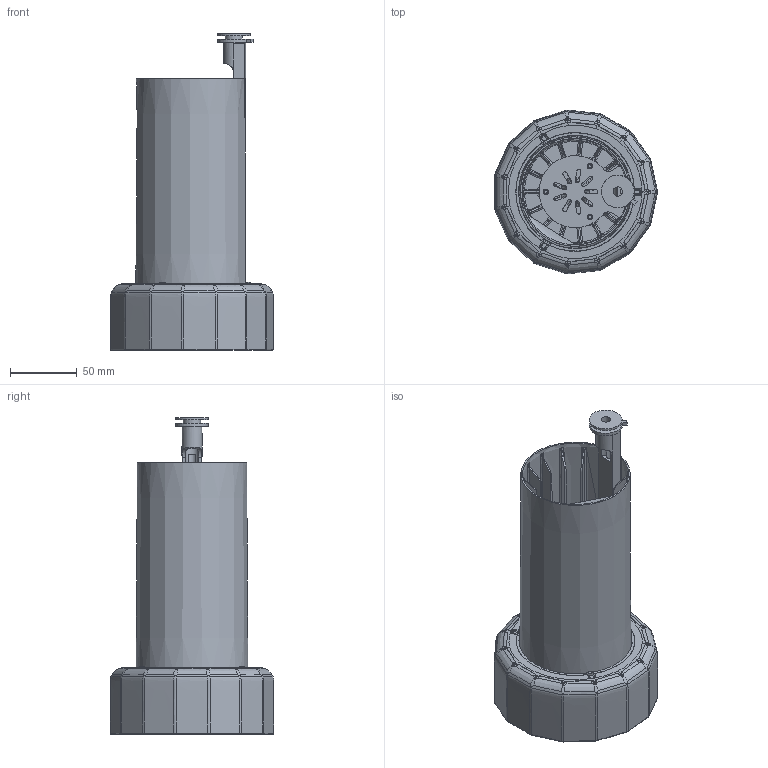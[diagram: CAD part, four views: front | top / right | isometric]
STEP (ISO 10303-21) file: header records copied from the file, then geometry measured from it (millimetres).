
FILE_DESCRIPTION(/* description */ ('STEP AP214'),/* implementation_level */ '2;1');
FILE_NAME(/* name */ 'Casto modules - Creased.step',/* time_stamp */ '2026-10-13T09:34:16+02:00',/* author */ (''),/* organization */ (''),/* preprocessor_version */ 'ST-DEVELOPER v20.2',/* originating_system */ 'Autodesk Translation Framework v15.15.0.0',/* authorisation */ '');
FILE_SCHEMA (('AUTOMOTIVE_DESIGN { 1 0 10303 214 3 1 1 }'));
Length unit declared in the file: millimetre
Products named in the file (14): Expo wysoki UGR; expo; nypel track; DR0002489A1007_forma1; 92.70.131.00; DR0002489A1005_forma1; DR0002489A1003_forma1; 2-1674-M; DR0002489A1004_forma1; 16208807_02_(LES15).stp; 2026-08-04-09-28-45-469; 2026-08-13-05-20-13-833; 2026-08-13-03-34-55-201; 2026-08-11-08-22-23-976
Assembly tree (13 placements, depth 4):
  Expo wysoki UGR
    expo
      nypel track
      DR0002489A1007_forma1
      92.70.131.00
      DR0002489A1005_forma1
      DR0002489A1003_forma1
      2-1674-M
      DR0002489A1004_forma1
      16208807_02_(LES15).stp
    2026-08-04-09-28-45-469
      2026-08-13-05-20-13-833
        2026-08-13-03-34-55-201
    2026-08-11-08-22-23-976
Bounding box: 122.13 x 122.76 x 237.7 mm (x, y, z)
Volume: 333666.5 mm3; surface area: 253113.9 mm2
Topology: 13 solids, 13 shells, 1264 faces, 3494 edges, 2265 vertices
Faces by surface type: cylinder 472, bspline 467, plane 251, cone 40, torus 28, sphere 6
Full cylindrical faces by diameter (mm): 0.725 x1, 2.542 x48, 2.759 x20, 3.3 x74, 4 x3, 4.2 x3, 6 x1, 7 x2, 8.917 x9, 10 x11, 13 x1, 15 x2, 16.5 x1, 17.5 x1, 24.5 x1, 45 x1, 74 x1, 75 x1, 76 x1, 77.835 x14, 80 x15, 84.9 x2, 88.8 x1, 89.1 x1
Entity records: 144144 total; most frequent: CARTESIAN_POINT 115759, ORIENTED_EDGE 6978, DIRECTION 4305, EDGE_CURVE 3489, VERTEX_POINT 2265, AXIS2_PLACEMENT_3D 1663, B_SPLINE_CURVE_WITH_KNOTS 1505, EDGE_LOOP 1334
